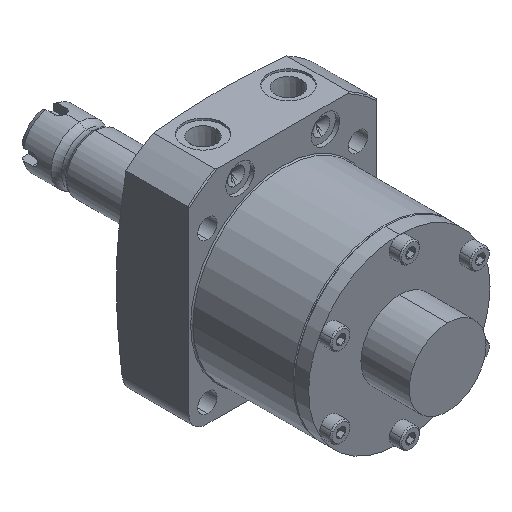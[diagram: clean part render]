
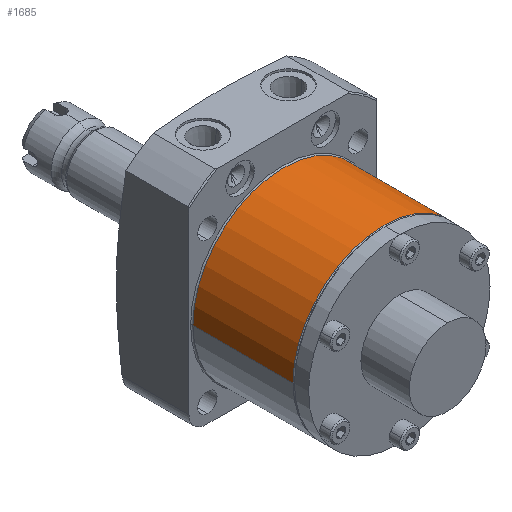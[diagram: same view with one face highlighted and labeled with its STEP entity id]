
A CAD part, isometric view. The second image highlights one B-rep face of the part: STEP entity #1685.
In plain terms, the highlighted cylindrical face has radius 32 mm (diameter 64 mm), a partial arc.
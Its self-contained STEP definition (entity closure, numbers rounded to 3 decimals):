
#96 = EDGE_CURVE ( 'NONE', #1607, #1615, #2087, .T. ) ;
#1607 = VERTEX_POINT ( 'NONE', #5227 ) ;
#1608 = VERTEX_POINT ( 'NONE', #5226 ) ;
#1609 = ORIENTED_EDGE ( 'NONE', *, *, #1610, .T. ) ;
#1610 = EDGE_CURVE ( 'NONE', #1608, #1667, #5225, .T. ) ;
#1611 = ORIENTED_EDGE ( 'NONE', *, *, #1612, .F. ) ;
#1612 = EDGE_CURVE ( 'NONE', #1615, #1667, #5221, .T. ) ;
#1613 = ORIENTED_EDGE ( 'NONE', *, *, #96, .F. ) ;
#1615 = VERTEX_POINT ( 'NONE', #5211 ) ;
#1667 = VERTEX_POINT ( 'NONE', #5387 ) ;
#1685 = ADVANCED_FACE ( 'NONE', ( #5419 ), #5418, .T. ) ;
#1686 = EDGE_LOOP ( 'NONE', ( #1687, #1609, #1611, #1613 ) ) ;
#1687 = ORIENTED_EDGE ( 'NONE', *, *, #1688, .T. ) ;
#1688 = EDGE_CURVE ( 'NONE', #1607, #1608, #5413, .T. ) ;
#2084 = DIRECTION ( 'NONE',  ( 0., 1., 0. ) ) ;
#2085 = VECTOR ( 'NONE', #2084, 1000. ) ;
#2086 = CARTESIAN_POINT ( 'NONE',  ( -32., -1.2, 0. ) ) ;
#2087 = LINE ( 'NONE', #2086, #2085 ) ;
#5211 = CARTESIAN_POINT ( 'NONE',  ( -32., -30.4, 0. ) ) ;
#5217 = DIRECTION ( 'NONE',  ( -1., 0., 0. ) ) ;
#5218 = DIRECTION ( 'NONE',  ( 0., 1., 0. ) ) ;
#5219 = CARTESIAN_POINT ( 'NONE',  ( 0., -30.4, 0. ) ) ;
#5220 = AXIS2_PLACEMENT_3D ( 'NONE', #5219, #5218, #5217 ) ;
#5221 = CIRCLE ( 'NONE', #5220, 32. ) ;
#5222 = DIRECTION ( 'NONE',  ( 0., 1., 0. ) ) ;
#5223 = VECTOR ( 'NONE', #5222, 1000. ) ;
#5224 = CARTESIAN_POINT ( 'NONE',  ( 32., -1.2, 0. ) ) ;
#5225 = LINE ( 'NONE', #5224, #5223 ) ;
#5226 = CARTESIAN_POINT ( 'NONE',  ( 32., -65.6, 0. ) ) ;
#5227 = CARTESIAN_POINT ( 'NONE',  ( -32., -65.6, 0. ) ) ;
#5387 = CARTESIAN_POINT ( 'NONE',  ( 32., -30.4, 0. ) ) ;
#5412 = AXIS2_PLACEMENT_3D ( 'NONE', #5472, #5471, #5470 ) ;
#5413 = CIRCLE ( 'NONE', #5412, 32. ) ;
#5414 = DIRECTION ( 'NONE',  ( -1., 0., 0. ) ) ;
#5415 = DIRECTION ( 'NONE',  ( 0., 1., 0. ) ) ;
#5416 = AXIS2_PLACEMENT_3D ( 'NONE', #5417, #5415, #5414 ) ;
#5417 = CARTESIAN_POINT ( 'NONE',  ( 0., -1.2, 0. ) ) ;
#5418 = CYLINDRICAL_SURFACE ( 'NONE', #5416, 32. ) ;
#5419 = FACE_OUTER_BOUND ( 'NONE', #1686, .T. ) ;
#5470 = DIRECTION ( 'NONE',  ( -1., 0., 0. ) ) ;
#5471 = DIRECTION ( 'NONE',  ( 0., 1., 0. ) ) ;
#5472 = CARTESIAN_POINT ( 'NONE',  ( 0., -65.6, 0. ) ) ;
